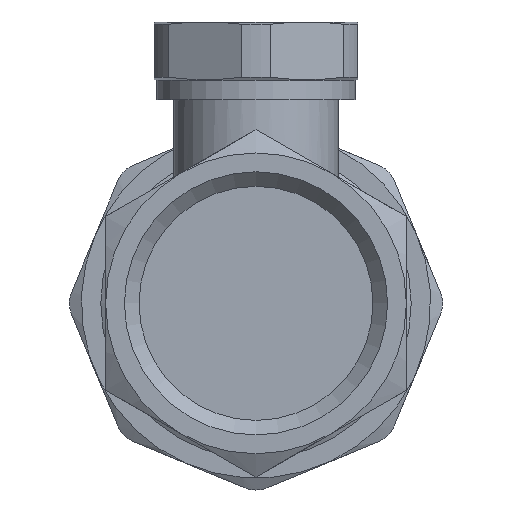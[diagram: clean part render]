
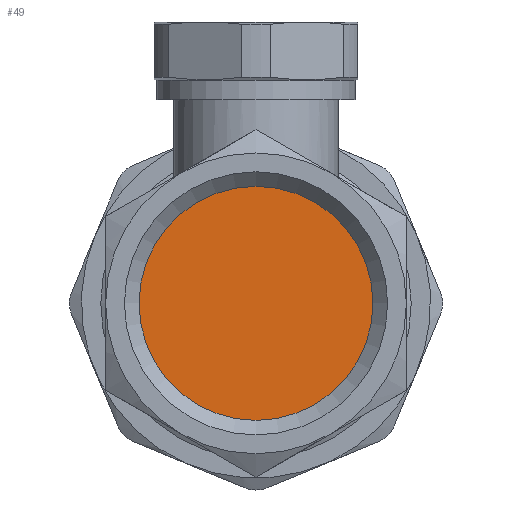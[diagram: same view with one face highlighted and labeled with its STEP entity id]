
A CAD part, front view. The second image highlights one B-rep face of the part: STEP entity #49.
In plain terms, the highlighted planar face has unit normal (0, -1, 0).
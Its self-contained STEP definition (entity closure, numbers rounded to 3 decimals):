
#49=ADVANCED_FACE('',(#176),#178,.T.);
#176=FACE_BOUND('',#177,.T.);
#177=EDGE_LOOP('',(#978));
#178=PLANE('',#179);
#179=AXIS2_PLACEMENT_3D('',#180,#181,#182);
#180=CARTESIAN_POINT('',(0.,13.,0.));
#181=DIRECTION('',(0.,-1.,0.));
#182=DIRECTION('',(1.,0.,0.));
#978=ORIENTED_EDGE('',*,*,#1406,.T.);
#1406=EDGE_CURVE('',#1631,#1631,#1632,.T.);
#1631=VERTEX_POINT('',#2012);
#1632=CIRCLE('',#2013,12.059);
#2012=CARTESIAN_POINT('',(12.059,13.,0.));
#2013=AXIS2_PLACEMENT_3D('',#2014,#2015,#2016);
#2014=CARTESIAN_POINT('',(0.,13.,0.));
#2015=DIRECTION('',(0.,-1.,0.));
#2016=DIRECTION('',(1.,0.,0.));
